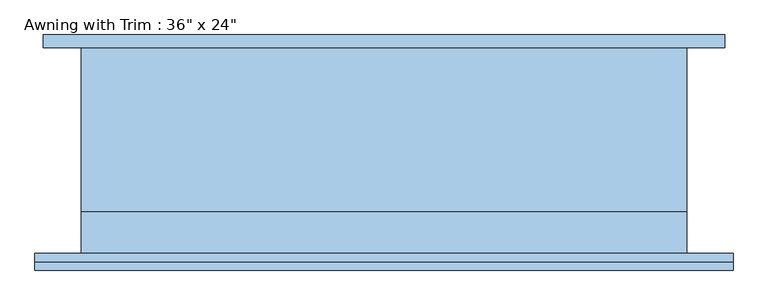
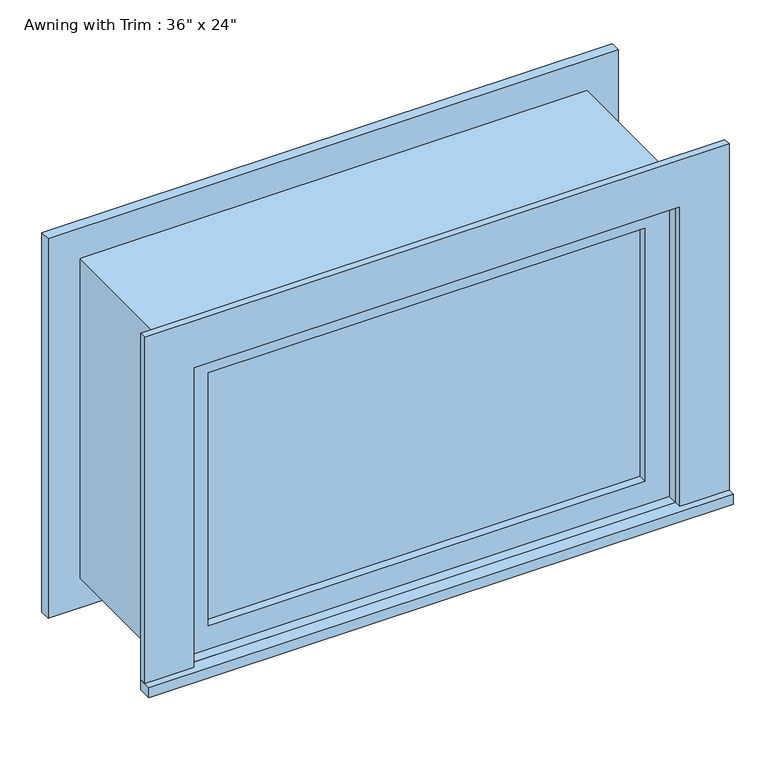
"""IFC4 building model written with IfcOpenShell, lengths in millimetres: window geometry."""

from ifc_helpers import new_model, si_unit, frame, origin, place, context, project, spatial, polyline, outline, extrude, source, transform, mapped, element, save


def window_2beb2d92(model_context):
    return source(origin(), model_context, "Body", "SweptSolid", [
        extrude(outline(polyline([(-527.05, -180.975), (-527.05, -155.575), (527.05, -155.575), (527.05, -180.975), (-527.05, -180.975)])), frame((0.0, 0.0, 914.4), z_axis=(0.0, 0.0, 1.0), x_axis=(1.0, 0.0, 0.0)), (0.0, 0.0, 1.0), 19.05),
        extrude(outline(polyline([(1504.95, -438.15), (1504.95, 438.15), (933.45, 438.15), (933.45, 527.05), (1593.85, 527.05), (1593.85, -527.05), (933.45, -527.05), (933.45, -438.15), (1504.95, -438.15)])), frame((0.0, -168.275, 0.0), z_axis=(0.0, 1.0, 0.0), x_axis=(0.0, 0.0, 1.0)), (0.0, 0.0, 1.0), 12.7),
        extrude(outline(polyline([(1581.15, 514.35), (1581.15, -514.35), (857.25, -514.35), (857.25, 514.35), (1581.15, 514.35)]), holes=[polyline([(1492.25, 425.45), (946.15, 425.45), (946.15, -425.45), (1492.25, -425.45), (1492.25, 425.45)])]), frame((0.0, 155.575, 0.0), z_axis=(0.0, 1.0, 0.0), x_axis=(0.0, 0.0, 1.0)), (0.0, 0.0, 1.0), 19.05),
        extrude(outline(polyline([(393.7, -107.95), (393.7, -120.65), (-393.7, -120.65), (-393.7, -107.95), (393.7, -107.95)])), frame((0.0, 0.0, 977.9), z_axis=(0.0, 0.0, 1.0), x_axis=(1.0, 0.0, 0.0)), (0.0, 0.0, 1.0), 482.6),
        extrude(outline(polyline([(1504.95, -438.15), (933.45, -438.15), (933.45, 438.15), (1504.95, 438.15), (1504.95, -438.15)]), holes=[polyline([(1460.5, -393.7), (1460.5, 393.7), (977.9, 393.7), (977.9, -393.7), (1460.5, -393.7)])]), frame((0.0, -136.525, 0.0), z_axis=(0.0, 1.0, 0.0), x_axis=(0.0, 0.0, 1.0)), (0.0, 0.0, 1.0), 44.45),
        extrude(outline(polyline([(1524.0, -457.2), (914.4, -457.2), (914.4, 457.2), (1524.0, 457.2), (1524.0, -457.2)]), holes=[polyline([(1492.25, -425.45), (1492.25, 425.45), (946.15, 425.45), (946.15, -425.45), (1492.25, -425.45)])]), frame((0.0, -92.075, 0.0), z_axis=(0.0, 1.0, 0.0), x_axis=(0.0, 0.0, 1.0)), (0.0, 0.0, 1.0), 247.65),
        extrude(outline(polyline([(1524.0, 457.2), (1524.0, -457.2), (914.4, -457.2), (914.4, 457.2), (1524.0, 457.2)]), holes=[polyline([(1504.95, 438.15), (933.45, 438.15), (933.45, -438.15), (1504.95, -438.15), (1504.95, 438.15)])]), frame((0.0, -155.575, 0.0), z_axis=(0.0, 1.0, 0.0), x_axis=(0.0, 0.0, 1.0)), (0.0, 0.0, 1.0), 63.5),
    ])


if __name__ == "__main__":
    model = new_model("IFC4")
    model_context = context("Model", 3, world=origin())
    ifc_project = project(units=[si_unit("LENGTHUNIT", "METRE", prefix="MILLI")], contexts=[model_context])
    site = spatial("IfcSite", under=ifc_project)
    building = spatial("IfcBuilding", under=site)
    placement = place(None, origin())
    window_shape = window_2beb2d92(model_context)
    element("IfcWindow", 1, ObjectType="Awning with Trim : 36\" x 24\"", at=placement, inside=building, context=model_context, shape_type="MappedRepresentation", body=[
        mapped(window_shape, transform((0.0, 0.0, 0.0), x_axis=(1.0, 0.0, 0.0), y_axis=(0.0, 1.0, 0.0), z_axis=(0.0, 0.0, 1.0))),
    ])
    save(model, "model.ifc")
